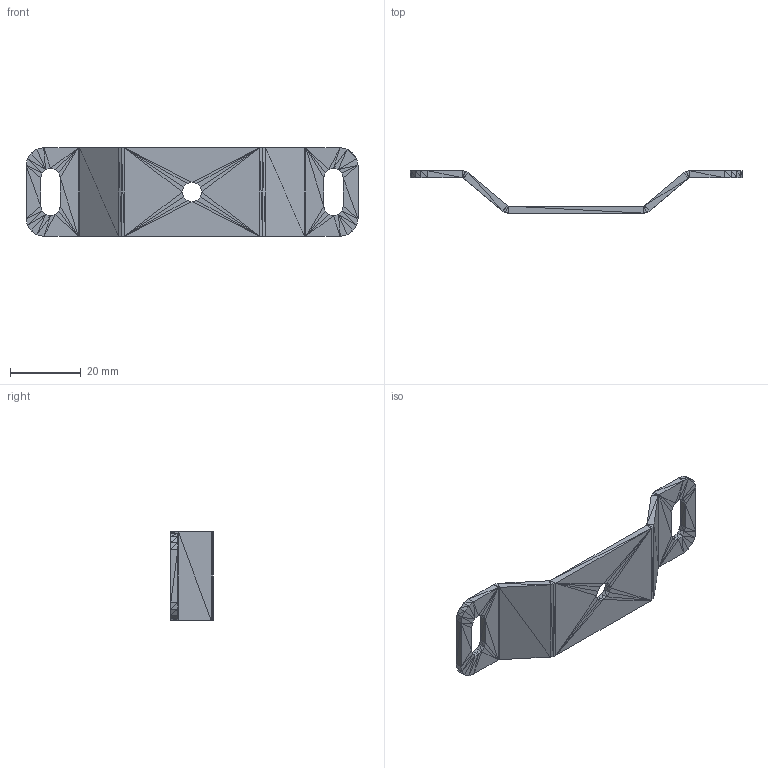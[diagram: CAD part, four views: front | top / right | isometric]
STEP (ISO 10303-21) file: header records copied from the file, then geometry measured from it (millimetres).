
FILE_DESCRIPTION((''),'2;1');
FILE_NAME('031125', '2025-08-04T09:25:15', (''), (''), 'ImageToStl.com STEP Converter','', '');
FILE_SCHEMA(('AUTOMOTIVE_DESIGN_CC2'));
Length unit declared in the file: metre
Products named in the file (1): product0
Bounding box: 93.84 x 12 x 25 mm (x, y, z)
Surface area: 5339 mm2 (no closed solid volume)
Topology: 0 solids, 344 shells, 344 faces, 1032 edges, 172 vertices
Faces by surface type: plane 344
Entity records: 7940 total; most frequent: DIRECTION 1722, ORIENTED_EDGE 1032, EDGE_CURVE 1032, LINE 1032, VECTOR 1032, AXIS2_PLACEMENT_3D 345, FACE_SURFACE 344, PLANE 344
